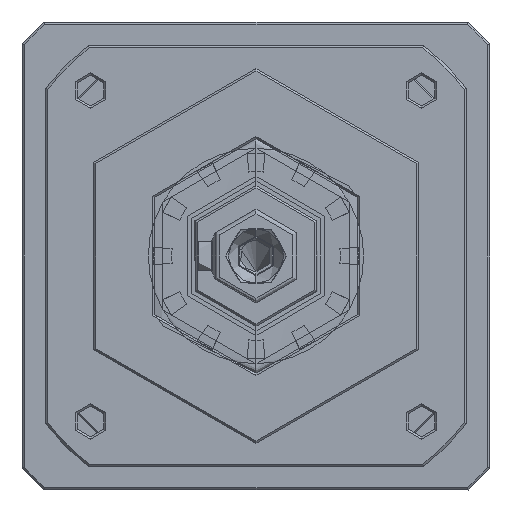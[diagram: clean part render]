
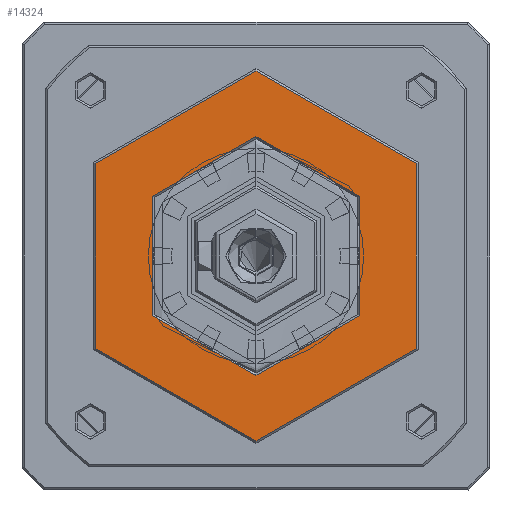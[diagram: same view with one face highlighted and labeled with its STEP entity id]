
A CAD part, left-side view. The second image highlights one B-rep face of the part: STEP entity #14324.
In plain terms, the highlighted planar face has unit normal (-1, 0, 0).
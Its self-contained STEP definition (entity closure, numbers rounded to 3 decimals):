
#4487 = DIRECTION ( 'NONE',  ( -1., 0., 0. ) ) ;
#4606 = FACE_BOUND ( 'NONE', #60599, .T. ) ;
#5871 = ORIENTED_EDGE ( 'NONE', *, *, #6609, .T. ) ;
#6299 = EDGE_LOOP ( 'NONE', ( #5871, #66085 ) ) ;
#6609 = EDGE_CURVE ( 'NONE', #58737, #92330, #89698, .T. ) ;
#8443 = CARTESIAN_POINT ( 'NONE',  ( 0., 0., 25.5 ) ) ;
#12359 = CARTESIAN_POINT ( 'NONE',  ( 0., 0., 0. ) ) ;
#12777 = DIRECTION ( 'NONE',  ( 1., 0., 0. ) ) ;
#14324 = ADVANCED_FACE ( 'NONE', ( #4606, #43526 ), #74870, .F. ) ;
#20359 = DIRECTION ( 'NONE',  ( 0., 0., -1. ) ) ;
#24861 = VERTEX_POINT ( 'NONE', #51780 ) ;
#25167 = DIRECTION ( 'NONE',  ( -1., 0., 0. ) ) ;
#30254 = CARTESIAN_POINT ( 'NONE',  ( 0., 0., -39.5 ) ) ;
#32802 = CARTESIAN_POINT ( 'NONE',  ( 0., 0., 0. ) ) ;
#36583 = AXIS2_PLACEMENT_3D ( 'NONE', #61418, #54831, #38645 ) ;
#38645 = DIRECTION ( 'NONE',  ( 0., 0., 1. ) ) ;
#42796 = AXIS2_PLACEMENT_3D ( 'NONE', #57207, #65113, #95542 ) ;
#43526 = FACE_OUTER_BOUND ( 'NONE', #6299, .T. ) ;
#45738 = ORIENTED_EDGE ( 'NONE', *, *, #51649, .F. ) ;
#48317 = DIRECTION ( 'NONE',  ( 0., 0., 1. ) ) ;
#50436 = CARTESIAN_POINT ( 'NONE',  ( 0., -39.974, 39.974 ) ) ;
#51649 = EDGE_CURVE ( 'NONE', #24861, #57447, #65279, .T. ) ;
#51780 = CARTESIAN_POINT ( 'NONE',  ( 0., 0., -25.5 ) ) ;
#54831 = DIRECTION ( 'NONE',  ( -1., 0., 0. ) ) ;
#57207 = CARTESIAN_POINT ( 'NONE',  ( 0., 0., 0. ) ) ;
#57447 = VERTEX_POINT ( 'NONE', #8443 ) ;
#58036 = EDGE_CURVE ( 'NONE', #57447, #24861, #68704, .T. ) ;
#58737 = VERTEX_POINT ( 'NONE', #30254 ) ;
#59995 = AXIS2_PLACEMENT_3D ( 'NONE', #32802, #25167, #48317 ) ;
#60599 = EDGE_LOOP ( 'NONE', ( #94406, #45738 ) ) ;
#61418 = CARTESIAN_POINT ( 'NONE',  ( 0., 0., 0. ) ) ;
#63229 = AXIS2_PLACEMENT_3D ( 'NONE', #50436, #12777, #20359 ) ;
#65113 = DIRECTION ( 'NONE',  ( -1., 0., 0. ) ) ;
#65279 = CIRCLE ( 'NONE', #36583, 25.5 ) ;
#66085 = ORIENTED_EDGE ( 'NONE', *, *, #91419, .T. ) ;
#67451 = CARTESIAN_POINT ( 'NONE',  ( 0., 0., 39.5 ) ) ;
#68704 = CIRCLE ( 'NONE', #59995, 25.5 ) ;
#74870 = PLANE ( 'NONE',  #63229 ) ;
#77236 = CIRCLE ( 'NONE', #42796, 39.5 ) ;
#79609 = AXIS2_PLACEMENT_3D ( 'NONE', #12359, #4487, #80087 ) ;
#80087 = DIRECTION ( 'NONE',  ( 0., 0., -1. ) ) ;
#89698 = CIRCLE ( 'NONE', #79609, 39.5 ) ;
#91419 = EDGE_CURVE ( 'NONE', #92330, #58737, #77236, .T. ) ;
#92330 = VERTEX_POINT ( 'NONE', #67451 ) ;
#94406 = ORIENTED_EDGE ( 'NONE', *, *, #58036, .F. ) ;
#95542 = DIRECTION ( 'NONE',  ( 0., 0., -1. ) ) ;
